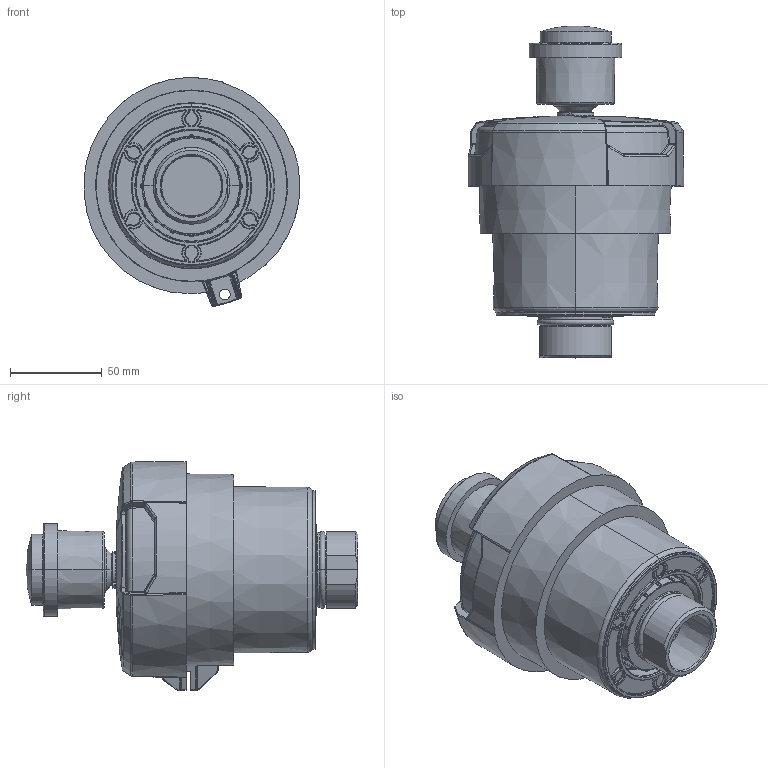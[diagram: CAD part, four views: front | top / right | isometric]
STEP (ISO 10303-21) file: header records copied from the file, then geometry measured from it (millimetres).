
FILE_DESCRIPTION((''),'2;1');
FILE_NAME('1000417944','2023-07-17T',('v.pichlmaier'),(''),'PRO/ENGINEER BY PARAMETRIC TECHNOLOGY CORPORATION, 2015110','PRO/ENGINEER BY PARAMETRIC TECHNOLOGY CORPORATION, 2015110','');
FILE_SCHEMA(('AUTOMOTIVE_DESIGN { 1 0 10303 214 1 1 1 1 }'));
Products named in the file (1): 1000417944
Bounding box: 117.86 x 181.28 x 125.01 mm (x, y, z)
Volume: 956109.1 mm3; surface area: 76748.6 mm2
Topology: 1 solids, 3 shells, 1855 faces, 4373 edges, 2546 vertices
Faces by surface type: bspline 872, torus 274, plane 253, cylinder 211, cone 177, sphere 68
Entity records: 110406 total; most frequent: CARTESIAN_POINT 60509, ORIENTED_EDGE 8738, DIRECTION 6204, PRESENTATION_STYLE_ASSIGNMENT 4370, STYLED_ITEM 4370, CURVE_STYLE 4369, EDGE_CURVE 4369, AXIS2_PLACEMENT_3D 2703
